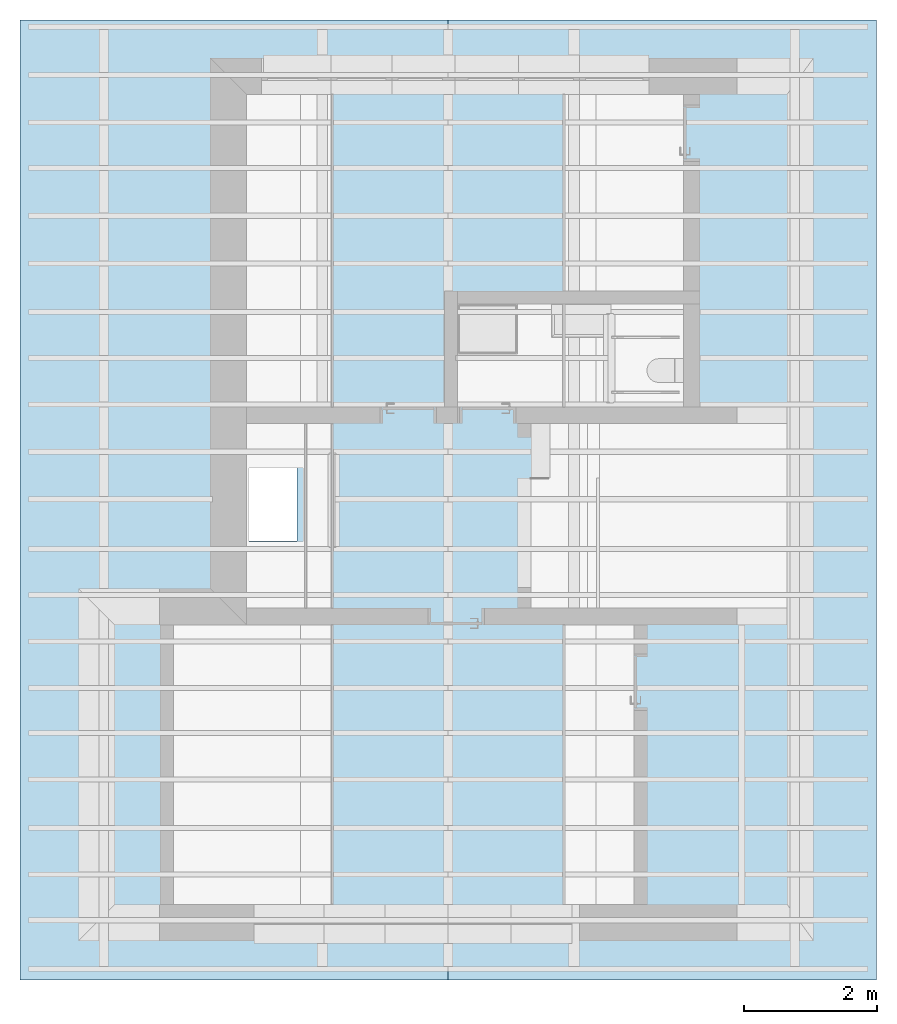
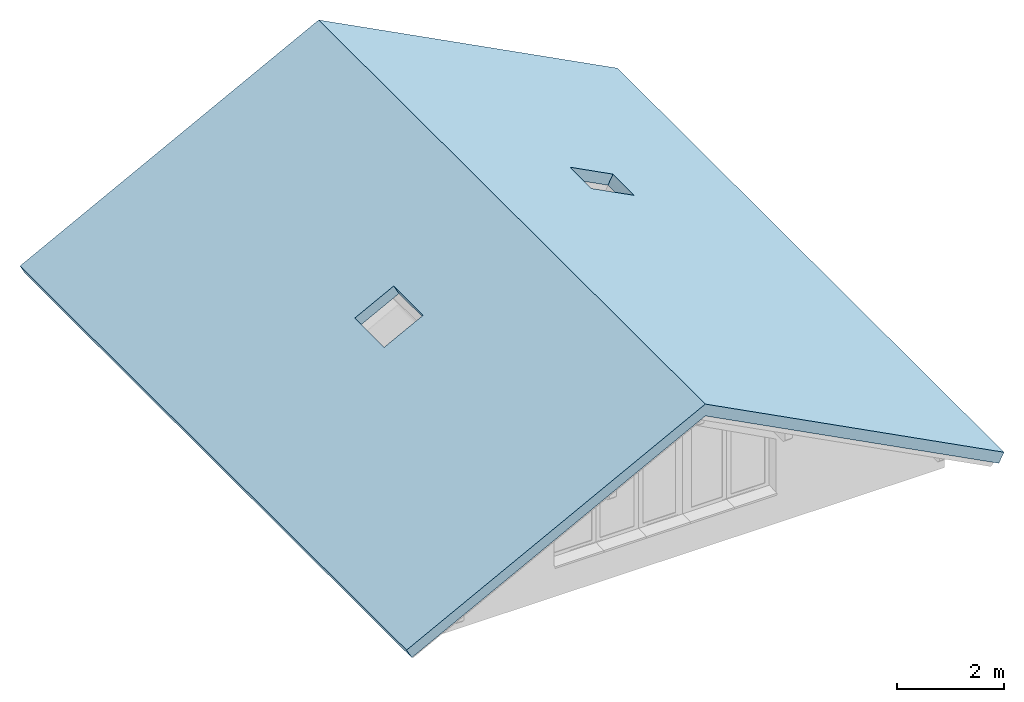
# One storey, part 14 of 18: 1 roof.
"""IFC2X3 building model written with IfcOpenShell, lengths in metres."""

import ifcopenshell
import ifcopenshell.guid

model = None  # the IFC model being written
_history = None  # IfcOwnerHistory: only IFC2X3 demands one
_inside = {}  # id of a spatial element -> (the spatial element, [elements in it])
_under = {}  # id of a project, library or spatial element -> (it, [spatial elements below it])
_declared = {}  # id of a project -> (the project, [libraries it declares])
_typed = {}  # id of a type object -> (the type object, [elements of that type])
_made_of = {}  # id of a material, layer set ... -> (it, [elements and type objects made of it])


def new_model(schema):
    """Start an empty IFC model of exactly this schema.

    Asked for "IFC4X3", IfcOpenShell would pick the latest addendum, in which some entities
    have other attributes; the version numbers below select the first issue.
    IFC2X3 requires an IfcOwnerHistory on every rooted entity: one is made here for all.
    """
    global model, _history
    if schema == "IFC4X3":
        model = ifcopenshell.file(schema_version=(4, 3, 0, 0))
    else:
        model = ifcopenshell.file(schema=schema)
    _inside.clear()
    _under.clear()
    _declared.clear()
    _typed.clear()
    _made_of.clear()
    _history = None
    if model.schema == "IFC2X3":
        org = make("IfcOrganization", Name="unknown")
        user = make(
            "IfcPersonAndOrganization",
            ThePerson=make("IfcPerson", FamilyName="unknown"),
            TheOrganization=org,
        )
        app = make(
            "IfcApplication",
            ApplicationDeveloper=org,
            Version="unknown",
            ApplicationFullName="unknown",
            ApplicationIdentifier="unknown",
        )
        _history = make(
            "IfcOwnerHistory",
            OwningUser=user,
            OwningApplication=app,
            ChangeAction="ADDED",
            CreationDate=0,
        )
    return model


def make(cls, **values):
    """One entity of the class cls with the attributes given. An attribute that is None is left unset."""
    return model.create_entity(
        cls, **{name: value for name, value in values.items() if value is not None}
    )


def entity(cls, *values):
    """Any entity or typed value of the class cls, its attributes in the order of the schema. None: left unset."""
    e = model.create_entity(cls)
    for i, value in enumerate(values):
        if value is not None:
            e[i] = value
    return e


def rooted(cls, **values):
    """An entity with a GlobalId (a new one), such as an element, a storey or a relation."""
    return make(cls, GlobalId=ifcopenshell.guid.new(), OwnerHistory=_history, **values)


def si_unit(unit_type, name, prefix=None):
    """IfcSIUnit, for example si_unit("LENGTHUNIT", "METRE", prefix="MILLI")."""
    return make("IfcSIUnit", UnitType=unit_type, Prefix=prefix, Name=name)


def converted_unit(unit_type, name, factor, base, dimensions=None, offset=None):
    """IfcConversionBasedUnit, such as the inch: factor (a typed value) times the base unit."""
    return make(
        "IfcConversionBasedUnit"
        if offset is None
        else "IfcConversionBasedUnitWithOffset",
        ConversionOffset=offset,
        Dimensions=None
        if dimensions is None
        else entity("IfcDimensionalExponents", *dimensions),
        UnitType=unit_type,
        Name=name,
        ConversionFactor=make(
            "IfcMeasureWithUnit", ValueComponent=factor, UnitComponent=base
        ),
    )


def derived_unit(unit_type, elements):
    """IfcDerivedUnit: a product of units, each with its exponent."""
    return make(
        "IfcDerivedUnit",
        Elements=[
            make("IfcDerivedUnitElement", Unit=unit, Exponent=power)
            for unit, power in elements
        ],
        UnitType=unit_type,
    )


def assignment(units):
    """IfcUnitAssignment: the units of a project."""
    return None if units is None else make("IfcUnitAssignment", Units=units)


def point(xyz):
    """IfcCartesianPoint."""
    return None if xyz is None else make("IfcCartesianPoint", Coordinates=xyz)


def direction(xyz):
    """IfcDirection."""
    return None if xyz is None else make("IfcDirection", DirectionRatios=xyz)


def frame(location, z_axis=None, x_axis=None):
    """IfcAxis2Placement3D, a coordinate frame: its origin and axes. An axis left out is left unset."""
    return make(
        "IfcAxis2Placement3D",
        Location=point(location),
        Axis=direction(z_axis),
        RefDirection=direction(x_axis),
    )


def origin():
    """The frame at (0, 0, 0) with its axes left unset."""
    return frame((0.0, 0.0, 0.0))


def place(relative_to, where):
    """IfcLocalPlacement: puts the frame where relative to a parent placement (None: the world)."""
    return make(
        "IfcLocalPlacement", PlacementRelTo=relative_to, RelativePlacement=where
    )


def context(
    kind, dimensions, precision=None, world=None, true_north=None, identifier=None
):
    """IfcGeometricRepresentationContext, for example the 3D "Model" context."""
    return make(
        "IfcGeometricRepresentationContext",
        ContextIdentifier=identifier,
        ContextType=kind,
        CoordinateSpaceDimension=dimensions,
        Precision=precision,
        WorldCoordinateSystem=world,
        TrueNorth=true_north,
    )


def subcontext(parent, identifier, kind, view, scale=None):
    """IfcGeometricRepresentationSubContext, for example "Body" below "Model"."""
    return make(
        "IfcGeometricRepresentationSubContext",
        ContextIdentifier=identifier,
        ContextType=kind,
        ParentContext=parent,
        TargetScale=scale,
        TargetView=view,
    )


def project(units=None, contexts=None):
    """IfcProject with its units and contexts."""
    return rooted(
        "IfcProject",
        Name="project",
        RepresentationContexts=contexts,
        UnitsInContext=assignment(units),
    )


def spatial(cls, under=None, at=None, **own):
    """A site, building, storey or space (cls), placed at a placement, below another one or the project."""
    s = rooted(cls, ObjectPlacement=at, **own)
    if under is not None:
        _under.setdefault(under.id(), (under, []))[1].append(s)
    return s


def faces_of(points, faces, orient=None, outer=None):
    """IfcFace entities. A face is a list of loops; a loop is a list of indices into points, from 0.

    orient and outer hold one flag for each loop. By default every Orientation is true, the
    first loop of a face is its IfcFaceOuterBound and the others are IfcFaceBound.
    """
    made = []
    for i, loops in enumerate(faces):
        bounds = []
        for j, loop in enumerate(loops):
            is_outer = j == 0 if outer is None else outer[i][j]
            bounds.append(
                make(
                    "IfcFaceOuterBound" if is_outer else "IfcFaceBound",
                    Bound=make("IfcPolyLoop", Polygon=[points[k] for k in loop]),
                    Orientation=True if orient is None else orient[i][j],
                )
            )
        made.append(make("IfcFace", Bounds=bounds))
    return made


def faceted_brep(points, faces, orient=None, outer=None, voids=None):
    """IfcFacetedBrep: a solid bounded by flat faces; with voids (closed shells), ...WithVoids."""
    shared = [point(p) for p in points]
    hull = make("IfcClosedShell", CfsFaces=faces_of(shared, faces, orient, outer))
    if voids is None:
        return make("IfcFacetedBrep", Outer=hull)
    return make(
        "IfcFacetedBrepWithVoids",
        Outer=hull,
        Voids=[
            make(cls, CfsFaces=faces_of(shared, fs, o, b)) for cls, fs, o, b in voids
        ],
    )


def shape(context_of_items, identifier, shape_type, items):
    """IfcShapeRepresentation: the items that make up one representation, for example the "Body"."""
    return make(
        "IfcShapeRepresentation",
        ContextOfItems=context_of_items,
        RepresentationIdentifier=identifier,
        RepresentationType=shape_type,
        Items=items,
    )


def material(Name=None, Category=None):
    """IfcMaterial."""
    return make("IfcMaterial", Name=Name, Category=Category)


def layer(
    of_material, thickness, ventilated=None, Name=None, Category=None, Priority=None
):
    """IfcMaterialLayer: one layer of a wall or slab, of a material (None: an air gap)."""
    return make(
        "IfcMaterialLayer",
        Material=of_material,
        LayerThickness=thickness,
        IsVentilated=ventilated,
        Name=Name,
        Category=Category,
        Priority=Priority,
    )


def layer_set(layers, Name=None):
    """IfcMaterialLayerSet."""
    return make("IfcMaterialLayerSet", MaterialLayers=layers, LayerSetName=Name)


def made_of(thing, what):
    """Note that an element or type object is made of a material, layer set ...; save() writes the relation."""
    if what is not None:
        _made_of.setdefault(what.id(), (what, []))[1].append(thing)
    return thing


def type_object(cls, material=None, **own):
    """A type object (cls), such as IfcWallType, which elements share."""
    return made_of(rooted(cls, **own), material)


def element(
    cls,
    number,
    at=None,
    inside=None,
    cuts=None,
    type_object=None,
    material=None,
    context=None,
    identifier="Body",
    shape_type=None,
    held_by="IfcProductDefinitionShape",
    body=None,
    shapes=None,
    **own,
):
    """One element of the class cls, such as IfcWall. Its Tag is "e" and its number.

    at: its placement. inside: the storey or other place that contains it. cuts: it is an
    opening in that element (IfcRelVoidsElement). A single representation is given by context,
    identifier, shape_type and body (its items); several are given by shapes. held_by: the class
    of the entity that holds the representations. save() writes the other relations.
    """
    e = rooted(cls, Tag="e%d" % number, ObjectPlacement=at, **own)
    if body is not None:
        shapes = [shape(context, identifier, shape_type, body)]
    if shapes is not None:
        e.Representation = make(held_by, Representations=shapes)
    if inside is not None:
        _inside.setdefault(inside.id(), (inside, []))[1].append(e)
    if cuts is not None:
        rooted(
            "IfcRelVoidsElement", RelatingBuildingElement=cuts, RelatedOpeningElement=e
        )
    if type_object is not None:
        _typed.setdefault(type_object.id(), (type_object, []))[1].append(e)
    return made_of(e, material)


def aggregate(whole, parts):
    """IfcRelAggregates: a whole, such as a stair, and the parts it consists of."""
    return rooted("IfcRelAggregates", RelatingObject=whole, RelatedObjects=parts)


def save(model, path):
    """Write the relations noted so far, then the file.

    IfcRelAggregates (storeys below a building ...), IfcRelContainedInSpatialStructure (elements
    in a storey), IfcRelDefinesByType, IfcRelAssociatesMaterial and IfcRelDeclares: one each for
    every whole, place, type object, material and project.
    """
    for whole, parts in _under.values():
        aggregate(whole, parts)
    for where, things in _inside.values():
        rooted(
            "IfcRelContainedInSpatialStructure",
            RelatedElements=things,
            RelatingStructure=where,
        )
    for kind, things in _typed.values():
        rooted("IfcRelDefinesByType", RelatedObjects=things, RelatingType=kind)
    for what, things in _made_of.values():
        rooted("IfcRelAssociatesMaterial", RelatedObjects=things, RelatingMaterial=what)
    for by, libraries in _declared.values():
        rooted("IfcRelDeclares", RelatingContext=by, RelatedDefinitions=libraries)
    model.write(path)


model = new_model("IFC2X3")

# Units and contexts
model_context = context("Model", 3, precision=1e-05, world=origin(), true_north=direction((6.123233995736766e-17, 1.0)))
body_context = subcontext(model_context, "Body", "Model", "MODEL_VIEW")
ifc_project = project(units=[si_unit("LENGTHUNIT", "METRE"), si_unit("AREAUNIT", "SQUARE_METRE"), si_unit("VOLUMEUNIT", "CUBIC_METRE"), si_unit("POWERUNIT", "WATT"), derived_unit("USERDEFINED", [(si_unit("MASSUNIT", "GRAM", prefix="KILO"), 1), (si_unit("TIMEUNIT", "SECOND"), -3)]), derived_unit("THERMALRESISTANCEUNIT", [(si_unit("MASSUNIT", "GRAM", prefix="KILO"), -1), (si_unit("TIMEUNIT", "SECOND"), 3), (si_unit("THERMODYNAMICTEMPERATUREUNIT", "KELVIN"), 1)]), derived_unit("USERDEFINED", [(si_unit("MASSUNIT", "GRAM", prefix="KILO"), 1), (si_unit("TIMEUNIT", "SECOND"), -2), (si_unit("THERMODYNAMICTEMPERATUREUNIT", "KELVIN"), -1)]), derived_unit("THERMALTRANSMITTANCEUNIT", [(si_unit("MASSUNIT", "GRAM", prefix="KILO"), 1), (si_unit("TIMEUNIT", "SECOND"), -3), (si_unit("THERMODYNAMICTEMPERATUREUNIT", "KELVIN"), -1)]), converted_unit("PLANEANGLEUNIT", "DEGREE", entity("IfcPlaneAngleMeasure", 0.017453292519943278), si_unit("PLANEANGLEUNIT", "RADIAN"), dimensions=[0, 0, 0, 0, 0, 0, 0]), derived_unit("MOMENTOFINERTIAUNIT", [(si_unit("LENGTHUNIT", "METRE"), 4)])], contexts=[model_context])

# Site, building, storey
site_placement = place(None, origin())
site = spatial("IfcSite", under=ifc_project, at=site_placement, Name="Default", CompositionType="ELEMENT")
building_placement = place(site_placement, origin())
building = spatial("IfcBuilding", under=site, at=building_placement, CompositionType="ELEMENT")
storey_placement = place(building_placement, frame((0.0, 0.0, 5.4)))
storey = spatial("IfcBuildingStorey", under=building, at=storey_placement, Name="1. Obergeschoss", CompositionType="ELEMENT", Elevation=5.4)

# Roof
ifc_material_1 = material(Name="Dachdeckung - Ziegeldach")
ifc_layer_1 = layer(ifc_material_1, 0.04)
ifc_material_2 = material(Name="Dämmung - ausgeschäumt")
ifc_layer_2 = layer(ifc_material_2, 0.04)
ifc_material_3 = material(Name="Dachdeckung - Holz")
ifc_layer_3 = layer(ifc_material_3, 0.02)
ifc_material_4 = material(Name="Dämmung - weich")
ifc_layer_4 = layer(ifc_material_4, 0.1)
ifc_layer_5 = layer(ifc_material_2, 0.02)
ifc_layer_6 = layer(ifc_material_3, 0.02)
ifc_layer_set = layer_set([ifc_layer_1, ifc_layer_2, ifc_layer_3, ifc_layer_4, ifc_layer_5, ifc_layer_6], Name="Basisdach:Ziegeldach 340")
type_product = type_object("IfcTypeProduct", Name="Basisdach:Ziegeldach 340")
roof_placement = place(storey_placement, frame((26.672529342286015, 14.702503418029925, 0.16518906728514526)))
element("IfcRoof", 1, at=roof_placement, inside=storey, type_object=type_product, material=ifc_layer_set, Name="Basisdach:Ziegeldach 340", ObjectType="Basisdach:Ziegeldach 340", ShapeType="NOTDEFINED", context=body_context, shape_type="Brep", body=[
    faceted_brep([(6.4500000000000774, 14.460000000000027, 3.299968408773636), (6.450000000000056, 0.0, 3.2999684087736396), (0.11081966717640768, 0.0, 0.0), (0.1108196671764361, 14.460000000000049, 0.0), (3.4411753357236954, 6.612049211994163, 1.733673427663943), (4.287551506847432, 6.612049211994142, 2.174268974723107), (4.287551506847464, 7.7120492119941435, 2.1742689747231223), (3.4411753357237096, 7.712049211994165, 1.7336734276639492), (12.789180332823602, 14.460000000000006, 0.0), (12.789180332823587, 0.0, 0.0), (8.99298610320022, 8.864768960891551, 1.9761736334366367), (9.928063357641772, 8.864768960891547, 1.4894032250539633), (9.928063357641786, 9.664768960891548, 1.4894032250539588), (8.992986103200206, 9.664768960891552, 1.976173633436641), (6.450000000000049, 0.0, 3.570540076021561), (6.45000000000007, 14.460000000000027, 3.570540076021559), (0.0, 14.460000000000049, 0.21288259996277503), (0.0, 0.0, 0.21288259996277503), (4.1748738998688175, 6.612049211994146, 2.3861843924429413), (3.332213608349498, 6.612049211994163, 1.9475232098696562), (3.33221360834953, 7.712049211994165, 1.9475232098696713), (4.174873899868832, 7.712049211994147, 2.3861843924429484), (12.899999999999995, 0.0, 0.21288259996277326), (12.900000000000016, 14.460000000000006, 0.2128825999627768), (10.037025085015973, 8.864768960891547, 1.7032530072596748), (9.105663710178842, 8.864768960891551, 2.1880890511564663), (9.105663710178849, 9.664768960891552, 2.1880890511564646), (10.037025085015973, 9.664768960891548, 1.7032530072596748), (9.050253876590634, 8.864768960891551, 2.0816477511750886), (9.981615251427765, 8.864768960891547, 1.5968117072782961), (9.981615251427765, 9.664768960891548, 1.5968117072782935), (9.050253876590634, 9.664768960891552, 2.081647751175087), (3.3876234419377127, 6.612049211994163, 1.8410819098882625), (4.230283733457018, 6.612049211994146, 2.279743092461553), (4.230283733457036, 7.712049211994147, 2.279743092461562), (3.3876234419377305, 7.712049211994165, 1.8410819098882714)], [[[0, 1, 2, 3], [4, 5, 6, 7]], [[1, 0, 8, 9], [10, 11, 12, 13]], [[14, 15, 16, 17], [18, 19, 20, 21]], [[15, 14, 22, 23], [24, 25, 26, 27]], [[23, 22, 9, 8]], [[17, 16, 3, 2]], [[2, 1, 9, 22, 14, 17]], [[0, 3, 16, 15, 23, 8]], [[28, 25, 24, 29, 11, 10]], [[30, 27, 26, 31, 13, 12]], [[29, 24, 27, 30]], [[25, 28, 31, 26]], [[31, 28, 10, 13]], [[29, 30, 12, 11]], [[32, 19, 18, 33, 5, 4]], [[34, 21, 20, 35, 7, 6]], [[33, 18, 21, 34]], [[19, 32, 35, 20]], [[35, 32, 4, 7]], [[33, 34, 6, 5]]]),
])

save(model, "model.ifc")
